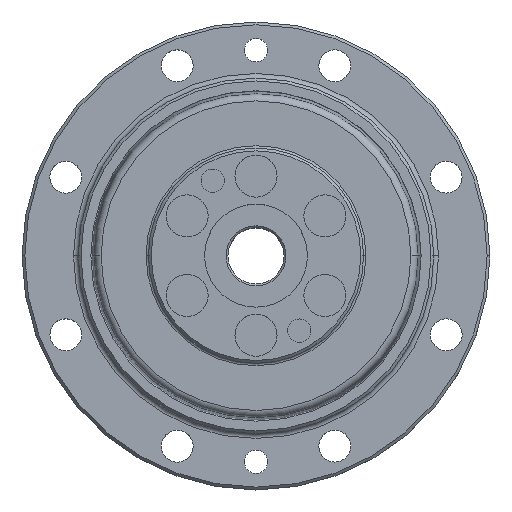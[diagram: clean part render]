
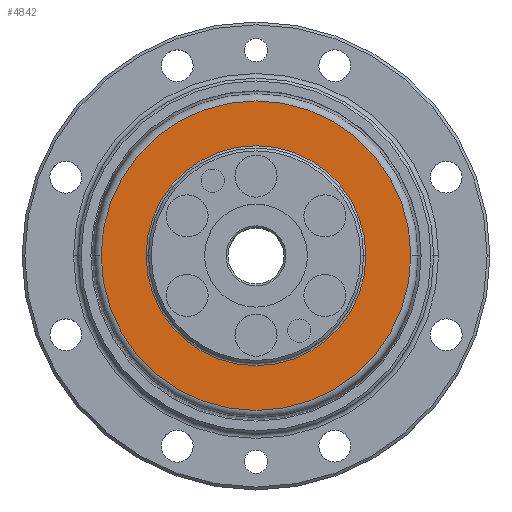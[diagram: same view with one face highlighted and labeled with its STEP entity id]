
A CAD part, top view. The second image highlights one B-rep face of the part: STEP entity #4842.
In plain terms, the highlighted planar face has unit normal (0, 0, 1).
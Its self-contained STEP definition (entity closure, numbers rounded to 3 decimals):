
#66 = DIRECTION ( 'NONE',  ( 0., 0., 1. ) ) ;
#84 = CARTESIAN_POINT ( 'NONE',  ( -11.75, 0., 13.45 ) ) ;
#221 = CIRCLE ( 'NONE', #7542, 11.75 ) ;
#315 = EDGE_CURVE ( 'NONE', #8167, #7871, #221, .T. ) ;
#363 = FACE_BOUND ( 'NONE', #4172, .T. ) ;
#391 = CARTESIAN_POINT ( 'NONE',  ( 0., 0., 13.45 ) ) ;
#623 = AXIS2_PLACEMENT_3D ( 'NONE', #391, #7450, #1411 ) ;
#917 = PLANE ( 'NONE',  #5882 ) ;
#1327 = ORIENTED_EDGE ( 'NONE', *, *, #2714, .T. ) ;
#1394 = AXIS2_PLACEMENT_3D ( 'NONE', #2752, #9818, #3778 ) ;
#1411 = DIRECTION ( 'NONE',  ( 1., 0., 0. ) ) ;
#1927 = DIRECTION ( 'NONE',  ( -1., 0., 0. ) ) ;
#2163 = EDGE_CURVE ( 'NONE', #8452, #10629, #10521, .T. ) ;
#2714 = EDGE_CURVE ( 'NONE', #10629, #8452, #12570, .T. ) ;
#2752 = CARTESIAN_POINT ( 'NONE',  ( 0., 0., 13.45 ) ) ;
#3028 = FACE_OUTER_BOUND ( 'NONE', #3424, .T. ) ;
#3424 = EDGE_LOOP ( 'NONE', ( #8918, #1327 ) ) ;
#3455 = DIRECTION ( 'NONE',  ( 0., 0., 1. ) ) ;
#3777 = ORIENTED_EDGE ( 'NONE', *, *, #8006, .F. ) ;
#3778 = DIRECTION ( 'NONE',  ( 1., 0., 0. ) ) ;
#4172 = EDGE_LOOP ( 'NONE', ( #8468, #3777 ) ) ;
#4290 = CIRCLE ( 'NONE', #623, 11.75 ) ;
#4842 = ADVANCED_FACE ( 'NONE', ( #363, #3028 ), #917, .F. ) ;
#5359 = DIRECTION ( 'NONE',  ( 1., 0., 0. ) ) ;
#5882 = AXIS2_PLACEMENT_3D ( 'NONE', #12973, #7970, #1927 ) ;
#6112 = CARTESIAN_POINT ( 'NONE',  ( 0., 0., 13.45 ) ) ;
#7122 = DIRECTION ( 'NONE',  ( 1., 0., 0. ) ) ;
#7450 = DIRECTION ( 'NONE',  ( 0., 0., 1. ) ) ;
#7542 = AXIS2_PLACEMENT_3D ( 'NONE', #12430, #3455, #5359 ) ;
#7711 = CARTESIAN_POINT ( 'NONE',  ( 11.75, 0., 13.45 ) ) ;
#7871 = VERTEX_POINT ( 'NONE', #84 ) ;
#7970 = DIRECTION ( 'NONE',  ( 0., 0., -1. ) ) ;
#8006 = EDGE_CURVE ( 'NONE', #7871, #8167, #4290, .T. ) ;
#8167 = VERTEX_POINT ( 'NONE', #7711 ) ;
#8452 = VERTEX_POINT ( 'NONE', #12438 ) ;
#8468 = ORIENTED_EDGE ( 'NONE', *, *, #315, .F. ) ;
#8910 = AXIS2_PLACEMENT_3D ( 'NONE', #6112, #66, #7122 ) ;
#8918 = ORIENTED_EDGE ( 'NONE', *, *, #2163, .T. ) ;
#9818 = DIRECTION ( 'NONE',  ( 0., 0., 1. ) ) ;
#10050 = CARTESIAN_POINT ( 'NONE',  ( -16.544, 0., 13.45 ) ) ;
#10521 = CIRCLE ( 'NONE', #8910, 16.544 ) ;
#10629 = VERTEX_POINT ( 'NONE', #10050 ) ;
#12430 = CARTESIAN_POINT ( 'NONE',  ( 0., 0., 13.45 ) ) ;
#12438 = CARTESIAN_POINT ( 'NONE',  ( 16.544, 0., 13.45 ) ) ;
#12570 = CIRCLE ( 'NONE', #1394, 16.544 ) ;
#12973 = CARTESIAN_POINT ( 'NONE',  ( 0., 11.75, 13.45 ) ) ;
